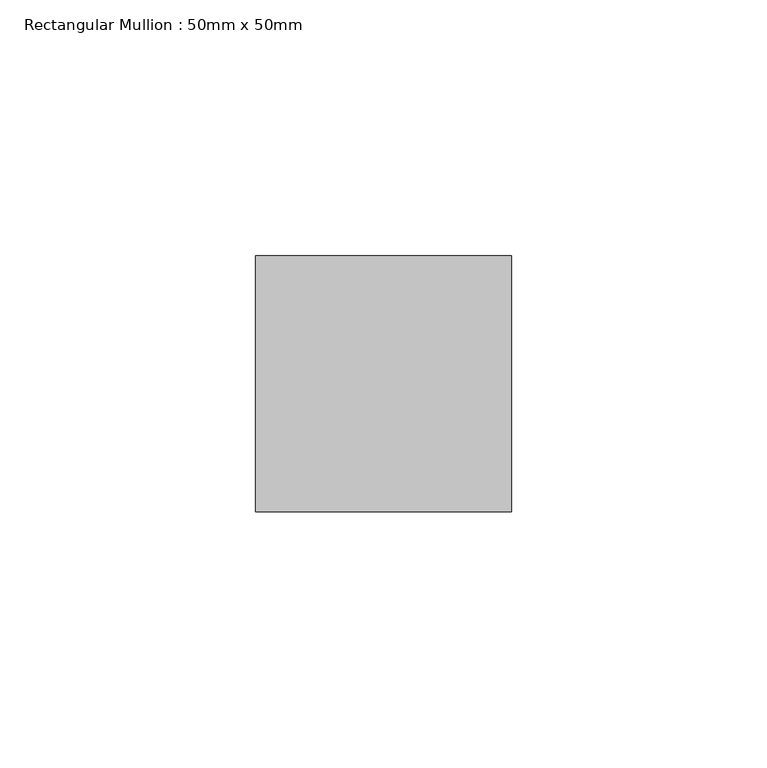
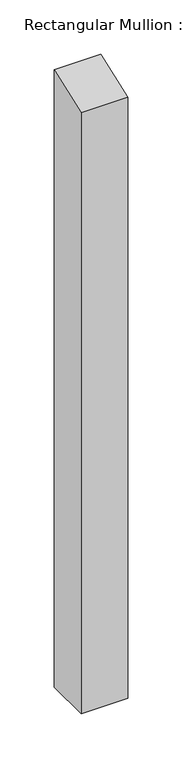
"""IFC4 building model written with IfcOpenShell, lengths in millimetres: member geometry, Rectangular Mullion : 50mm x 50mm."""

from ifc_helpers import new_model, si_unit, frame, origin, place, context, project, spatial, polyline, outline, extrude, source, transform, mapped, element, save


def rectangular_mullion_50mm_x_50mm_56ac31ee(model_context):
    return source(origin(), model_context, "Body", "SweptSolid", [
        extrude(outline(polyline([(-25.0, -9.3435582), (25.0, 9.3435582), (25.0, -687.8945145), (-25.0, -687.8945145), (-25.0, -9.3435582)])), frame((-25.0, 0.0, 0.0), z_axis=(1.0, 0.0, 0.0), x_axis=(0.0, 1.0, 0.0)), (0.0, 0.0, 1.0), 50.0),
    ])


if __name__ == "__main__":
    model = new_model("IFC4")
    model_context = context("Model", 3, world=origin())
    ifc_project = project(units=[si_unit("LENGTHUNIT", "METRE", prefix="MILLI")], contexts=[model_context])
    site = spatial("IfcSite", under=ifc_project)
    building = spatial("IfcBuilding", under=site)
    placement = place(None, origin())
    rectangular_mullion_50mm_x_50mm_shape = rectangular_mullion_50mm_x_50mm_56ac31ee(model_context)
    element("IfcMember", 1, ObjectType="Rectangular Mullion : 50mm x 50mm", at=placement, inside=building, context=model_context, shape_type="MappedRepresentation", body=[
        mapped(rectangular_mullion_50mm_x_50mm_shape, transform((0.0, 0.0, 0.0), x_axis=(1.0, 0.0, 0.0), y_axis=(0.0, 1.0, 0.0), z_axis=(0.0, 0.0, 1.0))),
    ])
    save(model, "model.ifc")
